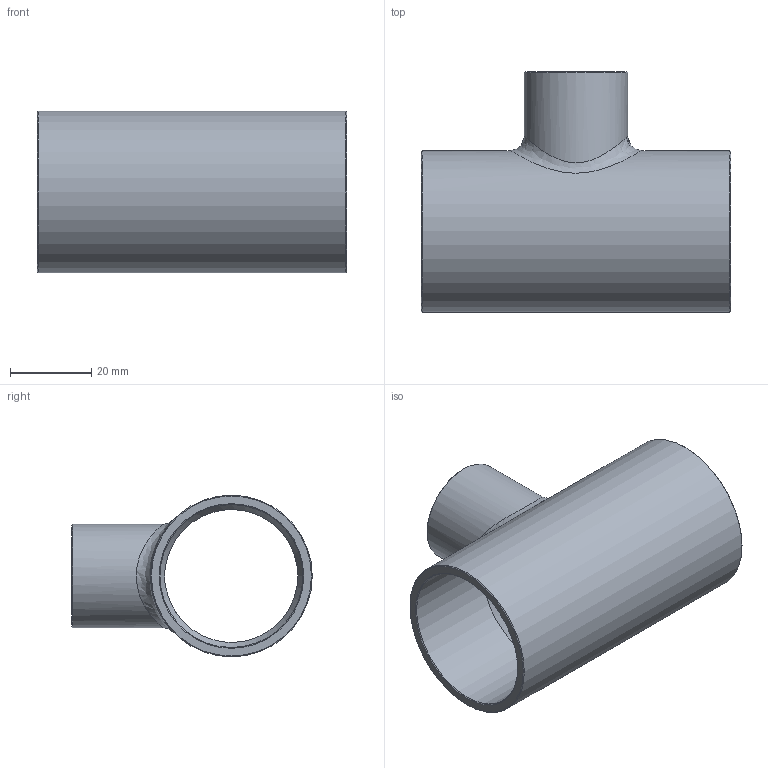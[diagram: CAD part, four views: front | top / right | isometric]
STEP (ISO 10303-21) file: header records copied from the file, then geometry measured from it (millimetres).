
FILE_DESCRIPTION((''),'2;1');
FILE_NAME('G:\SANHA-Ternat\Technik\Management\Bouwmaten + markeringen\z-maattekeningen 3D\29000s\2913013878138_3d.stp','2017-08-03T11:05:25',('vdvijverd'),(''),'Autodesk Inventor 2009','Autodesk Inventor 2009','');
FILE_SCHEMA(('AUTOMOTIVE_DESIGN { 1 0 10303 214 1 1 1 1 }'));
Length unit declared in the file: millimetre
Products named in the file (1): 2913013878138_3d
Bounding box: 76 x 59.05 x 39.7 mm (x, y, z)
Volume: 25761.2 mm3; surface area: 20736.8 mm2
Topology: 1 solids, 1 shells, 21 faces, 53 edges, 33 vertices
Faces by surface type: cone 8, cylinder 6, bspline 4, plane 3
Full cylindrical faces by diameter (mm): 20 x1, 22.375 x1, 25.4 x1, 35.105 x1, 39.7 x1
Entity records: 2021 total; most frequent: CARTESIAN_POINT 1605, DIRECTION 80, ORIENTED_EDGE 60, AXIS2_PLACEMENT_3D 40, EDGE_LOOP 40, EDGE_CURVE 30, VERTEX_POINT 26, CIRCLE 22
